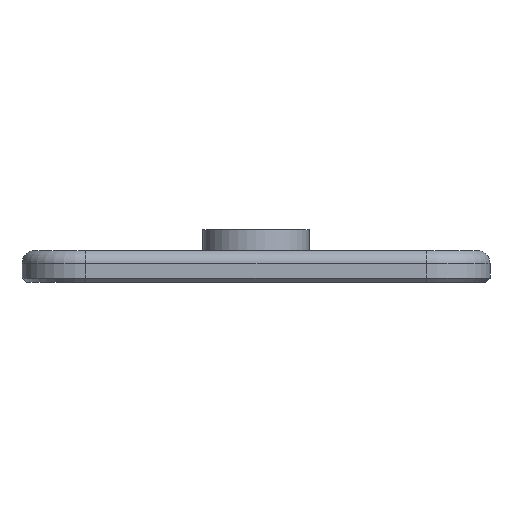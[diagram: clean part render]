
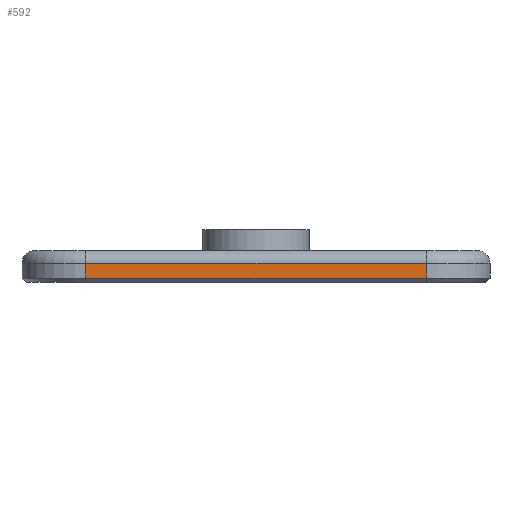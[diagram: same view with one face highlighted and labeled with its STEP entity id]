
A CAD part, front view. The second image highlights one B-rep face of the part: STEP entity #592.
In plain terms, the highlighted planar face has unit normal (0, -1, 0).
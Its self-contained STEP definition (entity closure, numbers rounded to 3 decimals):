
#62 = CYLINDRICAL_SURFACE('',#63,3.);
#63 = AXIS2_PLACEMENT_3D('',#64,#65,#66);
#64 = CARTESIAN_POINT('',(-8.,-25.,0.));
#65 = DIRECTION('',(-0.,-0.,-1.));
#66 = DIRECTION('',(1.,0.,0.));
#161 = VERTEX_POINT('',#162);
#162 = CARTESIAN_POINT('',(-8.,-28.,0.9));
#189 = EDGE_CURVE('',#190,#161,#192,.T.);
#190 = VERTEX_POINT('',#191);
#191 = CARTESIAN_POINT('',(-8.,-28.,0.2));
#192 = SURFACE_CURVE('',#193,(#197,#204),.PCURVE_S1.);
#193 = LINE('',#194,#195);
#194 = CARTESIAN_POINT('',(-8.,-28.,0.));
#195 = VECTOR('',#196,1.);
#196 = DIRECTION('',(0.,0.,1.));
#197 = PCURVE('',#62,#198);
#198 = DEFINITIONAL_REPRESENTATION('',(#199),#203);
#199 = LINE('',#200,#201);
#200 = CARTESIAN_POINT('',(-4.712,0.));
#201 = VECTOR('',#202,1.);
#202 = DIRECTION('',(-0.,-1.));
#203 = ( GEOMETRIC_REPRESENTATION_CONTEXT(2) 
PARAMETRIC_REPRESENTATION_CONTEXT() REPRESENTATION_CONTEXT('2D SPACE',''
  ) );
#204 = PCURVE('',#205,#210);
#205 = PLANE('',#206);
#206 = AXIS2_PLACEMENT_3D('',#207,#208,#209);
#207 = CARTESIAN_POINT('',(-8.,-28.,0.));
#208 = DIRECTION('',(0.,1.,0.));
#209 = DIRECTION('',(1.,0.,0.));
#210 = DEFINITIONAL_REPRESENTATION('',(#211),#215);
#211 = LINE('',#212,#213);
#212 = CARTESIAN_POINT('',(0.,0.));
#213 = VECTOR('',#214,1.);
#214 = DIRECTION('',(0.,-1.));
#215 = ( GEOMETRIC_REPRESENTATION_CONTEXT(2) 
PARAMETRIC_REPRESENTATION_CONTEXT() REPRESENTATION_CONTEXT('2D SPACE',''
  ) );
#496 = PLANE('',#497);
#497 = AXIS2_PLACEMENT_3D('',#498,#499,#500);
#498 = CARTESIAN_POINT('',(8.,-27.9,0.1));
#499 = DIRECTION('',(0.,-0.707,-0.707)
  );
#500 = DIRECTION('',(-1.,0.,0.));
#554 = CYLINDRICAL_SURFACE('',#555,0.6);
#555 = AXIS2_PLACEMENT_3D('',#556,#557,#558);
#556 = CARTESIAN_POINT('',(8.,-27.4,0.9));
#557 = DIRECTION('',(-1.,-0.,-0.));
#558 = DIRECTION('',(0.,-1.,0.));
#592 = ADVANCED_FACE('',(#593),#205,.F.);
#593 = FACE_BOUND('',#594,.F.);
#594 = EDGE_LOOP('',(#595,#596,#619,#647));
#595 = ORIENTED_EDGE('',*,*,#189,.T.);
#596 = ORIENTED_EDGE('',*,*,#597,.F.);
#597 = EDGE_CURVE('',#598,#161,#600,.T.);
#598 = VERTEX_POINT('',#599);
#599 = CARTESIAN_POINT('',(8.,-28.,0.9));
#600 = SURFACE_CURVE('',#601,(#605,#612),.PCURVE_S1.);
#601 = LINE('',#602,#603);
#602 = CARTESIAN_POINT('',(8.,-28.,0.9));
#603 = VECTOR('',#604,1.);
#604 = DIRECTION('',(-1.,-0.,-0.));
#605 = PCURVE('',#205,#606);
#606 = DEFINITIONAL_REPRESENTATION('',(#607),#611);
#607 = LINE('',#608,#609);
#608 = CARTESIAN_POINT('',(16.,-0.9));
#609 = VECTOR('',#610,1.);
#610 = DIRECTION('',(-1.,0.));
#611 = ( GEOMETRIC_REPRESENTATION_CONTEXT(2) 
PARAMETRIC_REPRESENTATION_CONTEXT() REPRESENTATION_CONTEXT('2D SPACE',''
  ) );
#612 = PCURVE('',#554,#613);
#613 = DEFINITIONAL_REPRESENTATION('',(#614),#618);
#614 = LINE('',#615,#616);
#615 = CARTESIAN_POINT('',(0.,0.));
#616 = VECTOR('',#617,1.);
#617 = DIRECTION('',(0.,1.));
#618 = ( GEOMETRIC_REPRESENTATION_CONTEXT(2) 
PARAMETRIC_REPRESENTATION_CONTEXT() REPRESENTATION_CONTEXT('2D SPACE',''
  ) );
#619 = ORIENTED_EDGE('',*,*,#620,.F.);
#620 = EDGE_CURVE('',#621,#598,#623,.T.);
#621 = VERTEX_POINT('',#622);
#622 = CARTESIAN_POINT('',(8.,-28.,0.2));
#623 = SURFACE_CURVE('',#624,(#628,#635),.PCURVE_S1.);
#624 = LINE('',#625,#626);
#625 = CARTESIAN_POINT('',(8.,-28.,0.));
#626 = VECTOR('',#627,1.);
#627 = DIRECTION('',(0.,0.,1.));
#628 = PCURVE('',#205,#629);
#629 = DEFINITIONAL_REPRESENTATION('',(#630),#634);
#630 = LINE('',#631,#632);
#631 = CARTESIAN_POINT('',(16.,0.));
#632 = VECTOR('',#633,1.);
#633 = DIRECTION('',(0.,-1.));
#634 = ( GEOMETRIC_REPRESENTATION_CONTEXT(2) 
PARAMETRIC_REPRESENTATION_CONTEXT() REPRESENTATION_CONTEXT('2D SPACE',''
  ) );
#635 = PCURVE('',#636,#641);
#636 = CYLINDRICAL_SURFACE('',#637,3.);
#637 = AXIS2_PLACEMENT_3D('',#638,#639,#640);
#638 = CARTESIAN_POINT('',(8.,-25.,0.));
#639 = DIRECTION('',(-0.,-0.,-1.));
#640 = DIRECTION('',(1.,0.,0.));
#641 = DEFINITIONAL_REPRESENTATION('',(#642),#646);
#642 = LINE('',#643,#644);
#643 = CARTESIAN_POINT('',(-4.712,0.));
#644 = VECTOR('',#645,1.);
#645 = DIRECTION('',(-0.,-1.));
#646 = ( GEOMETRIC_REPRESENTATION_CONTEXT(2) 
PARAMETRIC_REPRESENTATION_CONTEXT() REPRESENTATION_CONTEXT('2D SPACE',''
  ) );
#647 = ORIENTED_EDGE('',*,*,#648,.T.);
#648 = EDGE_CURVE('',#621,#190,#649,.T.);
#649 = SURFACE_CURVE('',#650,(#654,#661),.PCURVE_S1.);
#650 = LINE('',#651,#652);
#651 = CARTESIAN_POINT('',(8.,-28.,0.2));
#652 = VECTOR('',#653,1.);
#653 = DIRECTION('',(-1.,-0.,-0.));
#654 = PCURVE('',#205,#655);
#655 = DEFINITIONAL_REPRESENTATION('',(#656),#660);
#656 = LINE('',#657,#658);
#657 = CARTESIAN_POINT('',(16.,-0.2));
#658 = VECTOR('',#659,1.);
#659 = DIRECTION('',(-1.,0.));
#660 = ( GEOMETRIC_REPRESENTATION_CONTEXT(2) 
PARAMETRIC_REPRESENTATION_CONTEXT() REPRESENTATION_CONTEXT('2D SPACE',''
  ) );
#661 = PCURVE('',#496,#662);
#662 = DEFINITIONAL_REPRESENTATION('',(#663),#667);
#663 = LINE('',#664,#665);
#664 = CARTESIAN_POINT('',(0.,-0.141));
#665 = VECTOR('',#666,1.);
#666 = DIRECTION('',(1.,0.));
#667 = ( GEOMETRIC_REPRESENTATION_CONTEXT(2) 
PARAMETRIC_REPRESENTATION_CONTEXT() REPRESENTATION_CONTEXT('2D SPACE',''
  ) );
